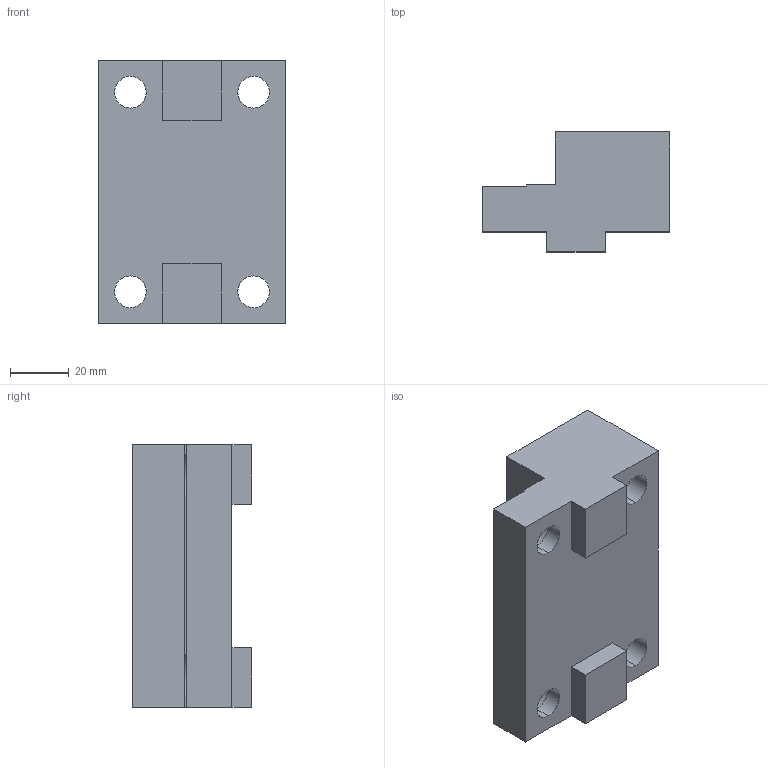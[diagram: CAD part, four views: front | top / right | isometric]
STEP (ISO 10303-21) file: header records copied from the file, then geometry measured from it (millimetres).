
FILE_DESCRIPTION (( 'STEP AP203' ), '1' );
FILE_NAME ('6921474006740.STEP', '2008-12-15T07:48:58', ( ' ' ), ( '' ), 'SwSTEP 2.0', 'SolidWorks 2008', '' );
FILE_SCHEMA (( 'CONFIG_CONTROL_DESIGN' ));
Length unit declared in the file: millimetre
Products named in the file (2): 6921474006740_Kundenmodell; 6921474006740
Assembly tree (1 placements, depth 2):
  6921474006740
    6921474006740_Kundenmodell
Bounding box: 64 x 40.8 x 89.5 mm (x, y, z)
Volume: 144222.9 mm3; surface area: 25542.2 mm2
Topology: 1 solids, 1 shells, 40 faces, 108 edges, 72 vertices
Faces by surface type: plane 24, cylinder 16
Entity records: 1480 total; most frequent: DIRECTION 232, CARTESIAN_POINT 224, ORIENTED_EDGE 216, EDGE_CURVE 108, AXIS2_PLACEMENT_3D 80, VERTEX_POINT 72, VECTOR 72, LINE 72
